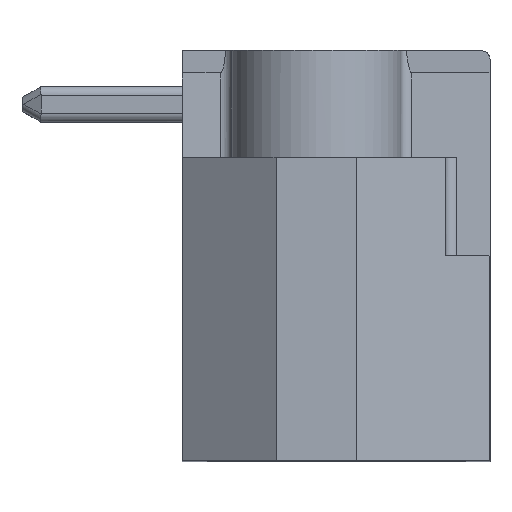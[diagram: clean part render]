
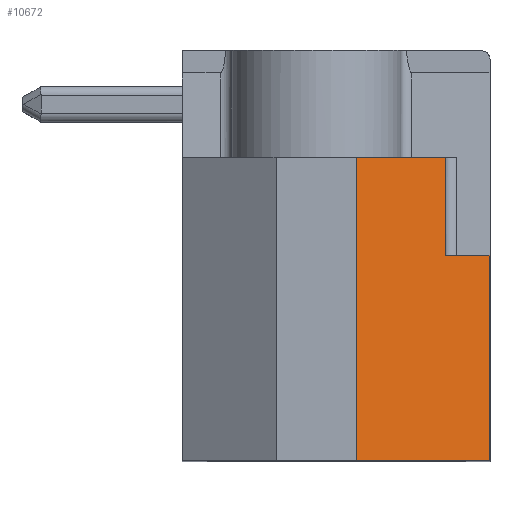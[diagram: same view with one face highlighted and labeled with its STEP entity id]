
A CAD part, top view. The second image highlights one B-rep face of the part: STEP entity #10672.
In plain terms, the highlighted planar face has unit normal (0.574, 0, 0.819).
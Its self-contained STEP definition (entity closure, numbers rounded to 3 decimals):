
#10310 = VERTEX_POINT ( 'NONE', #19214 ) ;
#10312 = EDGE_CURVE ( 'NONE', #10313, #10310, #19528, .T. ) ;
#10313 = VERTEX_POINT ( 'NONE', #19530 ) ;
#10353 = VERTEX_POINT ( 'NONE', #19584 ) ;
#10355 = EDGE_CURVE ( 'NONE', #10364, #10353, #19583, .T. ) ;
#10364 = VERTEX_POINT ( 'NONE', #19568 ) ;
#10366 = EDGE_CURVE ( 'NONE', #10310, #10364, #19567, .T. ) ;
#10668 = EDGE_CURVE ( 'NONE', #10669, #10313, #20149, .T. ) ;
#10669 = VERTEX_POINT ( 'NONE', #20145 ) ;
#10672 = ADVANCED_FACE ( 'NONE', ( #20139 ), #20137, .T. ) ;
#10673 = EDGE_LOOP ( 'NONE', ( #10675, #10676, #10679, #10739, #10740, #10742 ) ) ;
#10675 = ORIENTED_EDGE ( 'NONE', *, *, #10355, .T. ) ;
#10676 = ORIENTED_EDGE ( 'NONE', *, *, #10677, .F. ) ;
#10677 = EDGE_CURVE ( 'NONE', #10678, #10353, #20131, .T. ) ;
#10678 = VERTEX_POINT ( 'NONE', #20193 ) ;
#10679 = ORIENTED_EDGE ( 'NONE', *, *, #10680, .F. ) ;
#10680 = EDGE_CURVE ( 'NONE', #10669, #10678, #20192, .T. ) ;
#10739 = ORIENTED_EDGE ( 'NONE', *, *, #10668, .T. ) ;
#10740 = ORIENTED_EDGE ( 'NONE', *, *, #10312, .T. ) ;
#10742 = ORIENTED_EDGE ( 'NONE', *, *, #10366, .T. ) ;
#19214 = CARTESIAN_POINT ( 'NONE',  ( 5.9, -4.6, -1.4 ) ) ;
#19524 = CARTESIAN_POINT ( 'NONE',  ( 5.9, -4.6, -1.4 ) ) ;
#19525 = CARTESIAN_POINT ( 'NONE',  ( 6.233, -4.6, -1.633 ) ) ;
#19526 = CARTESIAN_POINT ( 'NONE',  ( 6.567, -4.6, -1.867 ) ) ;
#19527 = CARTESIAN_POINT ( 'NONE',  ( 6.9, -4.6, -2.1 ) ) ;
#19528 = B_SPLINE_CURVE_WITH_KNOTS ( 'NONE', 3,
 ( #19527, #19526, #19525, #19524 ),
 .UNSPECIFIED., .F., .F.,
 ( 4, 4 ),
 ( 0., 1. ),
 .UNSPECIFIED. ) ;
#19530 = CARTESIAN_POINT ( 'NONE',  ( 6.9, -4.6, -2.1 ) ) ;
#19564 = DIRECTION ( 'NONE',  ( 0., 1., 0. ) ) ;
#19565 = VECTOR ( 'NONE', #19564, 1000. ) ;
#19566 = CARTESIAN_POINT ( 'NONE',  ( 5.9, -5.8, -1.4 ) ) ;
#19567 = LINE ( 'NONE', #19566, #19565 ) ;
#19568 = CARTESIAN_POINT ( 'NONE',  ( 5.9, -2.4, -1.4 ) ) ;
#19580 = DIRECTION ( 'NONE',  ( -0.819, 0., 0.574 ) ) ;
#19581 = VECTOR ( 'NONE', #19580, 1000. ) ;
#19582 = CARTESIAN_POINT ( 'NONE',  ( 5.4, -2.4, -1.05 ) ) ;
#19583 = LINE ( 'NONE', #19582, #19581 ) ;
#19584 = CARTESIAN_POINT ( 'NONE',  ( 3.901, -2.4, 0. ) ) ;
#20130 = CARTESIAN_POINT ( 'NONE',  ( 3.901, -5.8, 0. ) ) ;
#20131 = LINE ( 'NONE', #20130, #20195 ) ;
#20133 = DIRECTION ( 'NONE',  ( 0.819, 0., -0.574 ) ) ;
#20134 = DIRECTION ( 'NONE',  ( 0.574, 0., 0.819 ) ) ;
#20135 = CARTESIAN_POINT ( 'NONE',  ( 3.901, -9.2, 0. ) ) ;
#20136 = AXIS2_PLACEMENT_3D ( 'NONE', #20135, #20134, #20133 ) ;
#20137 = PLANE ( 'NONE',  #20136 ) ;
#20139 = FACE_OUTER_BOUND ( 'NONE', #10673, .T. ) ;
#20145 = CARTESIAN_POINT ( 'NONE',  ( 6.9, -9.2, -2.1 ) ) ;
#20146 = DIRECTION ( 'NONE',  ( 0., 1., 0. ) ) ;
#20147 = VECTOR ( 'NONE', #20146, 1000. ) ;
#20148 = CARTESIAN_POINT ( 'NONE',  ( 6.9, -5.8, -2.1 ) ) ;
#20149 = LINE ( 'NONE', #20148, #20147 ) ;
#20189 = DIRECTION ( 'NONE',  ( -0.819, 0., 0.574 ) ) ;
#20190 = VECTOR ( 'NONE', #20189, 1000. ) ;
#20191 = CARTESIAN_POINT ( 'NONE',  ( 6.9, -9.2, -2.1 ) ) ;
#20192 = LINE ( 'NONE', #20191, #20190 ) ;
#20193 = CARTESIAN_POINT ( 'NONE',  ( 3.901, -9.2, 0. ) ) ;
#20194 = DIRECTION ( 'NONE',  ( 0., 1., 0. ) ) ;
#20195 = VECTOR ( 'NONE', #20194, 1000. ) ;
